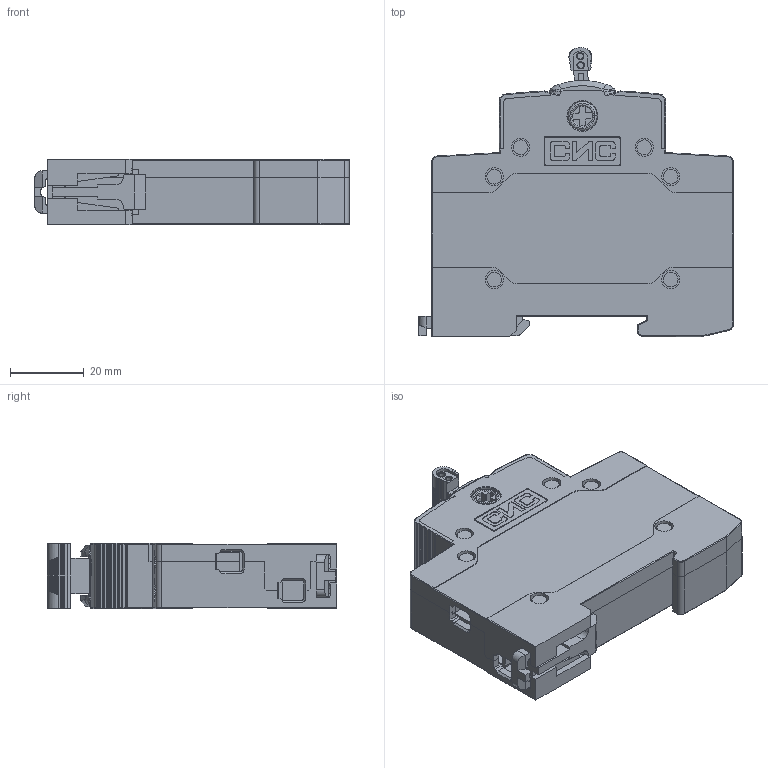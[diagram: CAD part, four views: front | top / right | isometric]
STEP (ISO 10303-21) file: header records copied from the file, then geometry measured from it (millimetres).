
FILE_DESCRIPTION (( 'STEP AP203' ), '1' );
FILE_NAME ('俋夤3峎芞.STEP', '2025-04-19T08:55:42', ( '' ), ( '' ), 'SwSTEP 2.0', 'SolidWorks 2022', '' );
FILE_SCHEMA (( 'CONFIG_CONTROL_DESIGN' ));
Length unit declared in the file: millimetre
Products named in the file (15): 卡扣; 盖; 长螺钉接线端子; 外观3维图; M4接线螺钉（短）; 指示; 铆钉; 右衬垫; 底座; 手柄; 左衬垫; M4接线螺钉（长）; 接线框01; 端子挡塞; 短螺钉接线端子
Assembly tree (21 placements, depth 3):
  外观3维图
    底座
    盖
    手柄
    左衬垫
    长螺钉接线端子  x2
      M4接线螺钉（长）
      接线框01
    短螺钉接线端子
      M4接线螺钉（短）
      接线框01
    右衬垫
    端子挡塞
    指示
    铆钉  x6
    卡扣
Bounding box: 85.5 x 78.69 x 17.8 mm (x, y, z)
Volume: 30621.5 mm3; surface area: 47883.4 mm2
Topology: 20 solids, 20 shells, 2402 faces, 6500 edges, 4217 vertices
Faces by surface type: plane 1350, cylinder 742, torus 136, cone 95, bspline 67, sphere 12
Entity records: 89049 total; most frequent: CARTESIAN_POINT 31928, ORIENTED_EDGE 11888, DIRECTION 11267, EDGE_CURVE 5944, LINE 4059, VECTOR 4059, VERTEX_POINT 3865, AXIS2_PLACEMENT_3D 3604
